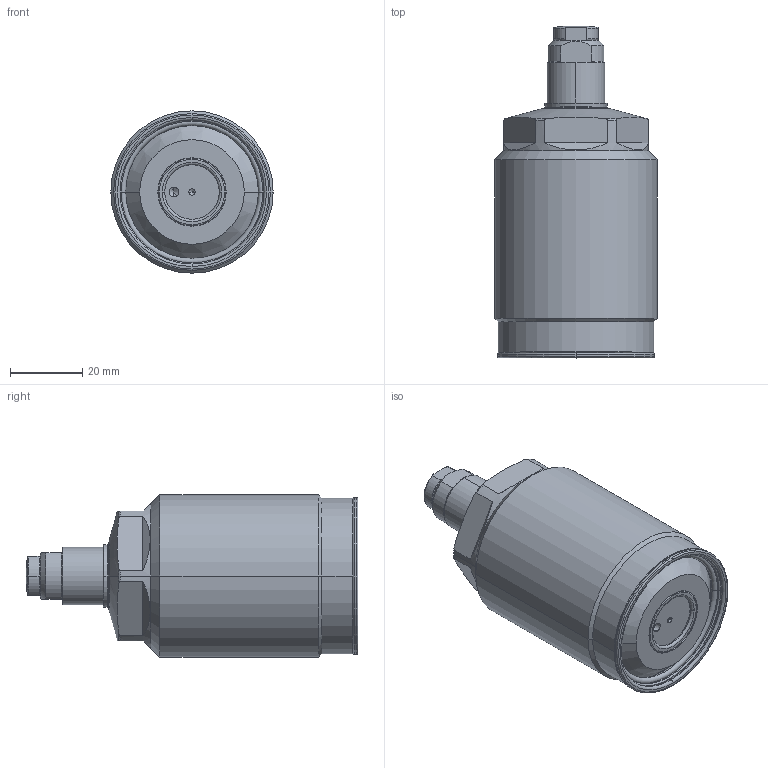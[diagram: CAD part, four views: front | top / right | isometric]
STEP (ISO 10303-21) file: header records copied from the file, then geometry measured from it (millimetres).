
FILE_DESCRIPTION(/* description */ (''),/* implementation_level */ '2;1');
FILE_NAME(/* name */ 'TSS45.stp',/* time_stamp */ '2024-11-02T13:21:03+08:00',/* author */ (''),/* organization */ (''),/* preprocessor_version */ 'ST-DEVELOPER v16.7',/* originating_system */ 'SIEMENS PLM Software NX 12.0',/* authorisation */ '');
FILE_SCHEMA (('AP203_CONFIGURATION_CONTROLLED_3D_DESIGN_OF_MECHANICAL_PARTS_AND_ASSEMBLIES_MIM_LF { 1 0 10303 403 2 1 2}'));
Length unit declared in the file: millimetre
Products named in the file (7): XLC-M10_Oring1242; XLC-M10_contactbolt1168; TSS45-04; TSS45-03; TSS45-02; TSS45-01; LD0453-x-E_step
Assembly tree (6 placements, depth 3):
  LD0453-x-E_step
    TSS45-01
      XLC-M10_contactbolt1168
      XLC-M10_Oring1242
    TSS45-02
    TSS45-03
    TSS45-04
Bounding box: 45 x 92 x 45 mm (x, y, z)
Volume: 101800.5 mm3; surface area: 16936.5 mm2
Topology: 5 solids, 5 shells, 372 faces, 779 edges, 424 vertices
Faces by surface type: cone 234, torus 59, cylinder 41, plane 36, sphere 2
Entity records: 10833 total; most frequent: CARTESIAN_POINT 1968, DIRECTION 1927, ORIENTED_EDGE 1550, AXIS2_PLACEMENT_3D 813, EDGE_CURVE 775, CIRCLE 434, VERTEX_POINT 424, EDGE_LOOP 387
